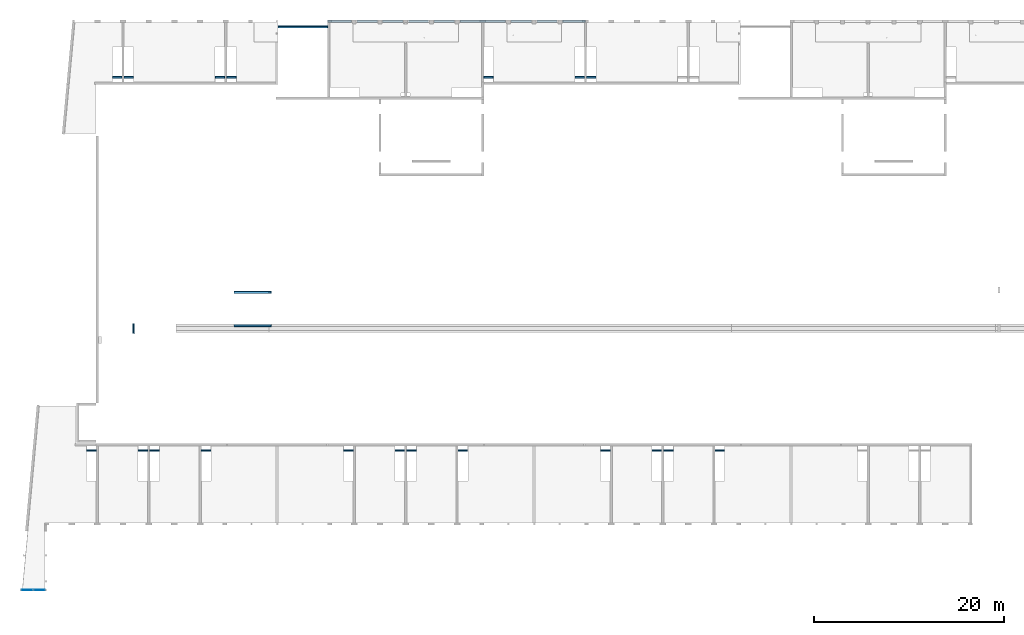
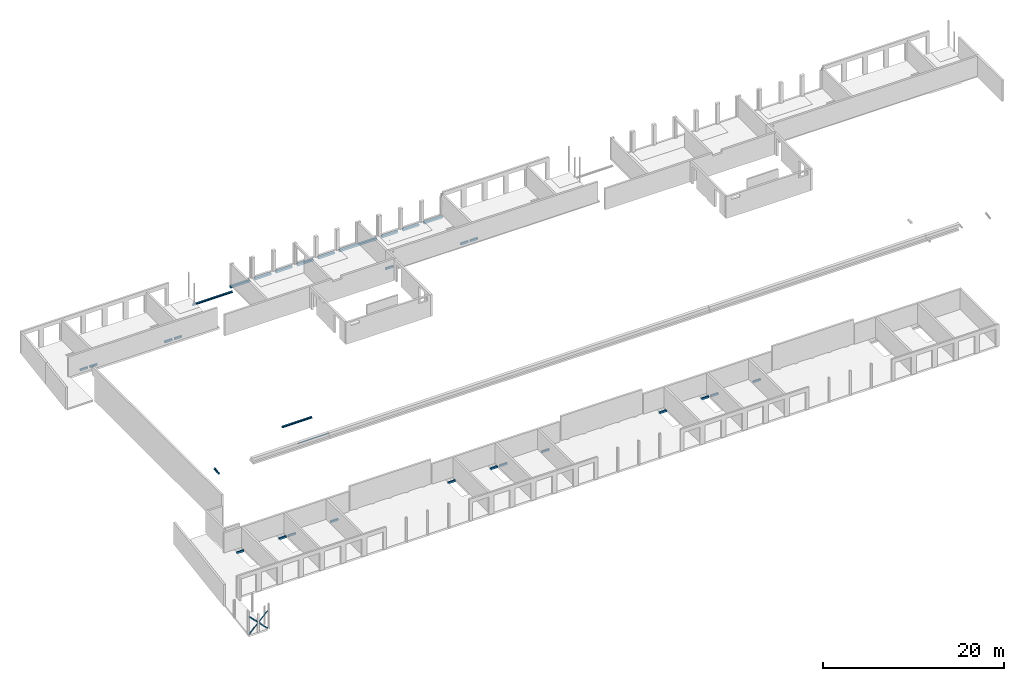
# One storey, part 10 of 22: 28 beams.
"""IFC2X3 building model written with IfcOpenShell, lengths in millimetres."""

from ifc_helpers import new_model, entity, si_unit, converted_unit, derived_unit, direction, frame, frame_2d, origin, origin_2d_with_axis, place, context, subcontext, project, spatial, polyline, circle_curve, parameter, trimmed, segment, composite_curve, rectangle, outline, extrude, source, transform, mapped, material, type_object, type_shapes, element, save


model = new_model("IFC2X3")

# Units and contexts
model_context = context("Model", 3, precision=0.01, world=origin(), true_north=direction((6.12303176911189e-17, 1.0)))
body_context = subcontext(model_context, "Body", "Model", "MODEL_VIEW")
ifc_project = project(units=[si_unit("LENGTHUNIT", "METRE", prefix="MILLI"), si_unit("AREAUNIT", "SQUARE_METRE"), si_unit("VOLUMEUNIT", "CUBIC_METRE"), converted_unit("PLANEANGLEUNIT", "DEGREE", entity("IfcRatioMeasure", 0.0174532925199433), si_unit("PLANEANGLEUNIT", "RADIAN"), dimensions=[0, 0, 0, 0, 0, 0, 0]), si_unit("MASSUNIT", "GRAM", prefix="KILO"), derived_unit("MASSDENSITYUNIT", [(si_unit("MASSUNIT", "GRAM", prefix="KILO"), 1), (si_unit("LENGTHUNIT", "METRE"), -3)]), si_unit("TIMEUNIT", "SECOND"), si_unit("FREQUENCYUNIT", "HERTZ"), si_unit("THERMODYNAMICTEMPERATUREUNIT", "DEGREE_CELSIUS"), derived_unit("THERMALTRANSMITTANCEUNIT", [(si_unit("MASSUNIT", "GRAM", prefix="KILO"), 1), (si_unit("THERMODYNAMICTEMPERATUREUNIT", "KELVIN"), -1), (si_unit("TIMEUNIT", "SECOND"), -3)]), derived_unit("VOLUMETRICFLOWRATEUNIT", [(si_unit("LENGTHUNIT", "METRE"), 3), (si_unit("TIMEUNIT", "SECOND"), -1)]), si_unit("ELECTRICCURRENTUNIT", "AMPERE"), si_unit("ELECTRICVOLTAGEUNIT", "VOLT"), si_unit("POWERUNIT", "WATT"), si_unit("FORCEUNIT", "NEWTON", prefix="KILO"), si_unit("ILLUMINANCEUNIT", "LUX"), si_unit("LUMINOUSFLUXUNIT", "LUMEN"), si_unit("LUMINOUSINTENSITYUNIT", "CANDELA"), derived_unit("USERDEFINED", [(si_unit("MASSUNIT", "GRAM", prefix="KILO"), -1), (si_unit("LENGTHUNIT", "METRE"), -2), (si_unit("TIMEUNIT", "SECOND"), 3), (si_unit("LUMINOUSFLUXUNIT", "LUMEN"), 1)]), derived_unit("LINEARVELOCITYUNIT", [(si_unit("LENGTHUNIT", "METRE"), 1), (si_unit("TIMEUNIT", "SECOND"), -1)]), si_unit("PRESSUREUNIT", "PASCAL"), derived_unit("USERDEFINED", [(si_unit("LENGTHUNIT", "METRE"), -2), (si_unit("MASSUNIT", "GRAM", prefix="KILO"), 1), (si_unit("TIMEUNIT", "SECOND"), -2)])], contexts=[model_context])

# Site, building, storey
site_placement = place(None, origin())
site = spatial("IfcSite", under=ifc_project, at=site_placement, Name="Default", CompositionType="ELEMENT")
building_placement = place(site_placement, origin())
building = spatial("IfcBuilding", under=site, at=building_placement, Name="niet gebruiken", CompositionType="ELEMENT")
storey_placement = place(building_placement, frame((0.0, 0.0, 9630.0)))
storey = spatial("IfcBuildingStorey", under=building, at=storey_placement, Name="03 derde verdieping", CompositionType="ELEMENT", Elevation=9630.00000000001)

# Beams
ifc_material_1 = material(Name="NLRS_h2_staal")
beam_type_1 = type_object("IfcBeamType", Name="NLRS_28.11_SF_WPB_stalen ligger hoekprofiel gelijkzijdig_gen:ligger gelijzijdig hoekprofiel LEQU_150x150x15", PredefinedType="BEAM")
beam_1_placement = place(storey_placement, frame((11932.5, 21361.056476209, 1369.98844434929), z_axis=(0.0, -0.123826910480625, 0.992303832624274), x_axis=(0.0, -0.992303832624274, -0.123826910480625)))
element("IfcBeam", 1, at=beam_1_placement, inside=storey, type_object=beam_type_1, material=ifc_material_1, Name="NLRS_28.11_SF_WPB_stalen ligger hoekprofiel gelijkzijdig_gen:ligger gelijzijdig hoekprofiel LEQU_150x150x15", ObjectType="NLRS_28.11_SF_WPB_stalen ligger hoekprofiel gelijkzijdig_gen:ligger gelijzijdig hoekprofiel LEQU_150x150x15", context=body_context, shape_type="SweptSolid", body=[
    extrude(outline(composite_curve([segment(polyline([(49.6666666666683, -93.3333333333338), (56.6666666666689, -93.3333333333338)]), True, "CONTINUOUS"), segment(polyline([(56.6666666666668, -93.3333333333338), (56.6666666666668, 56.6666666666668)]), True, "CONTINUOUS"), segment(polyline([(56.6666666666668, 56.6666666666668), (-93.3333333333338, 56.6666666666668)]), True, "CONTINUOUS"), segment(polyline([(-93.3333333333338, 56.6666666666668), (-93.3333333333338, 49.666666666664)]), True, "CONTINUOUS"), segment(trimmed(circle_curve(frame_2d((-85.3333333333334, 49.6666666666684), x_axis=(-1.0, 0.0)), 8.00000000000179), [parameter(0.0)], [parameter(89.9999999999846)], True, "PARAMETER"), True, "CONTINUOUS"), segment(polyline([(-85.3333333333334, 41.6666666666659), (25.6666666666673, 41.6666666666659)]), True, "CONTINUOUS"), segment(trimmed(circle_curve(frame_2d((25.6666666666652, 25.6666666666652), x_axis=(0.0, 1.0)), 16.0000000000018), [parameter(270.000000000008)], [parameter(0.0)], True, "PARAMETER"), False, "CONTINUOUS"), segment(polyline([(41.6666666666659, 25.6666666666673), (41.6666666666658, -85.3333333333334)]), True, "CONTINUOUS"), segment(trimmed(circle_curve(frame_2d((49.6666666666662, -85.3333333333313), x_axis=(-1.0, 0.0)), 8.00000000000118), [parameter(0.0)], [parameter(89.9999999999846)], True, "PARAMETER"), True, "CONTINUOUS")], self_intersect=False)), frame((0.0, -14.1666666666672, 56.6666666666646), z_axis=(1.0, 0.0, 0.0), x_axis=(0.0, 0.0, -1.0)), (0.0, 0.0, 1.0), 1045.0),
])
ifc_material_2 = material(Name="NLRS_f2_beton ihwg")
beam_type_2 = type_object("IfcBeamType", Name="250x280", PredefinedType="BEAM", material=ifc_material_2)
shared_shape_1 = source(origin(), body_context, "Body", "SweptSolid", [
    extrude(rectangle(XDim=2489.99999999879, YDim=250.000000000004, at=frame_2d((278.333333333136, -6.03250782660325e-12), x_axis=(1.0, 0.0))), frame((33266.6666666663, 53131.0, 9010.0)), (0.0, 0.0, 1.0), 279.999999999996),
    extrude(rectangle(XDim=2370.00000000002, YDim=250.000000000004, at=frame_2d((298.333333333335, -1.77067249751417e-11), x_axis=(1.0, 0.0))), frame((58493.3333333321, 53131.0, 9010.0), z_axis=(0.0, 0.0, 1.0), x_axis=(-1.0, 0.0, 0.0)), (0.0, 0.0, 1.0), 279.999999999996),
    extrude(rectangle(XDim=2080.0, YDim=250.000000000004, at=frame_2d((8.64019966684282e-12, 0.0), x_axis=(1.0, 0.0))), frame((52650.0, 53131.0, 9010.0), z_axis=(0.0, 0.0, 1.0), x_axis=(-1.0, 0.0, 0.0)), (0.0, 0.0, 1.0), 279.999999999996),
    extrude(rectangle(XDim=2080.0, YDim=250.000000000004, at=frame_2d((-8.64019966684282e-12, -8.66151594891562e-12), x_axis=(1.0, 0.0))), frame((55350.0, 53131.0, 9010.0)), (0.0, 0.0, 1.0), 279.999999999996),
    extrude(rectangle(XDim=4779.99999999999, YDim=249.999999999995, at=frame_2d((1.0481926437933e-09, 8.66151594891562e-12), x_axis=(1.0, 0.0))), frame((48600.0, 53131.0, 9010.0), z_axis=(0.0, 0.0, 1.0), x_axis=(-1.0, 0.0, 0.0)), (0.0, 0.0, 1.0), 279.999999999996),
    extrude(rectangle(XDim=2080.00000000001, YDim=250.000000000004, at=origin_2d_with_axis()), frame((44550.0, 53131.0, 9010.0), z_axis=(0.0, 0.0, 1.0), x_axis=(-1.0, 0.0, 0.0)), (0.0, 0.0, 1.0), 279.999999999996),
    extrude(rectangle(XDim=2079.99999999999, YDim=249.999999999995, at=frame_2d((0.0, 4.33431068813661e-12), x_axis=(1.0, 0.0))), frame((41850.0, 53131.0, 9010.0), z_axis=(0.0, 0.0, 1.0), x_axis=(-1.0, 0.0, 0.0)), (0.0, 0.0, 1.0), 279.999999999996),
    extrude(rectangle(XDim=2080.0, YDim=249.999999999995, at=frame_2d((-4.43378667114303e-12, -4.33431068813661e-12), x_axis=(1.0, 0.0))), frame((39150.0, 53131.0, 9010.0), z_axis=(0.0, 0.0, 1.0), x_axis=(-1.0, 0.0, 0.0)), (0.0, 0.0, 1.0), 279.999999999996),
    extrude(rectangle(XDim=2080.0, YDim=250.000000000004, at=frame_2d((2.1600499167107e-12, 0.0), x_axis=(1.0, 0.0))), frame((36450.0, 53131.0, 9010.0), z_axis=(0.0, 0.0, 1.0), x_axis=(-1.0, 0.0, 0.0)), (0.0, 0.0, 1.0), 279.999999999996),
])
type_shapes(beam_type_2, [shared_shape_1])
beam_2_placement = place(storey_placement, frame((0.0, 0.0, -9630.0)))
element("IfcBeam", 2, at=beam_2_placement, inside=storey, type_object=beam_type_2, material=ifc_material_2, Name="NLRS_28.11_SF_WPB_betonbalk ihwg recht_gen:250x280", ObjectType="250x280", context=body_context, shape_type="MappedRepresentation", body=[
    mapped(shared_shape_1, transform((0.0, 0.0, 0.0), scale=1.0)),
])
beam_type_3 = type_object("IfcBeamType", Name="NLRS_28.11_SF_WPB_stalen ligger hoekprofiel gelijkzijdig_gen:ligger gelijzijdig hoekprofiel LEQU_200x200x15", PredefinedType="BEAM")
beam_3_placement = place(storey_placement, frame((22470.0, 24551.0, 1282.49999999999)))
element("IfcBeam", 3, at=beam_3_placement, inside=storey, type_object=beam_type_3, material=ifc_material_1, Name="NLRS_28.11_SF_WPB_stalen ligger hoekprofiel gelijkzijdig_gen:ligger gelijzijdig hoekprofiel LEQU_200x200x15", ObjectType="NLRS_28.11_SF_WPB_stalen ligger hoekprofiel gelijkzijdig_gen:ligger gelijzijdig hoekprofiel LEQU_200x200x15", context=body_context, shape_type="SweptSolid", body=[
    extrude(outline(composite_curve([segment(polyline([(66.3333333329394, -126.666666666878), (73.3333333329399, -126.666666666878)]), True, "CONTINUOUS"), segment(polyline([(73.3333333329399, -126.666666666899), (73.3333333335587, 73.3333333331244)]), True, "CONTINUOUS"), segment(polyline([(73.3333333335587, 73.3333333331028), (-126.666666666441, 73.3333333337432)]), True, "CONTINUOUS"), segment(polyline([(-126.666666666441, 73.3333333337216), (-126.666666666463, 66.3333333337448)]), True, "CONTINUOUS"), segment(trimmed(circle_curve(frame_2d((-118.666666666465, 66.333333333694), x_axis=(-1.0, 0.0)), 7.99999999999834), [parameter(0.0)], [parameter(90.0000000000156)], True, "PARAMETER"), True, "CONTINUOUS"), segment(polyline([(-118.666666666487, 58.3333333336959), (42.3333333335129, 58.3333333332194)]), True, "CONTINUOUS"), segment(trimmed(circle_curve(frame_2d((42.3333333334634, 42.3333333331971), x_axis=(0.0, 1.0)), 16.0000000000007), [parameter(270.0)], [parameter(0.0)], True, "PARAMETER"), False, "CONTINUOUS"), segment(polyline([(58.3333333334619, 42.3333333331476), (58.3333333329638, -118.666666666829)]), True, "CONTINUOUS"), segment(trimmed(circle_curve(frame_2d((66.3333333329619, -118.666666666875), x_axis=(-1.0, 0.0)), 7.99999999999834), [parameter(0.0)], [parameter(90.0000000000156)], True, "PARAMETER"), True, "CONTINUOUS")], self_intersect=False)), frame((0.0, 126.666666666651, -19.1666666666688), z_axis=(1.0, 0.0, 0.0), x_axis=(0.0, 0.0, -1.0)), (0.0, 0.0, 1.0), 3880.00000000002),
])
beam_4_placement = place(storey_placement, frame((22470.0, 21246.0, 1282.49999999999)))
element("IfcBeam", 4, at=beam_4_placement, inside=storey, type_object=beam_type_3, material=ifc_material_1, Name="NLRS_28.11_SF_WPB_stalen ligger hoekprofiel gelijkzijdig_gen:ligger gelijzijdig hoekprofiel LEQU_200x200x15", ObjectType="NLRS_28.11_SF_WPB_stalen ligger hoekprofiel gelijkzijdig_gen:ligger gelijzijdig hoekprofiel LEQU_200x200x15", context=body_context, shape_type="SweptSolid", body=[
    extrude(outline(composite_curve([segment(polyline([(-126.66666666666, -73.3333333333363), (73.3333333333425, -73.3333333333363)]), True, "CONTINUOUS"), segment(polyline([(73.3333333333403, -73.3333333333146), (73.333333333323, 126.666666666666)]), True, "CONTINUOUS"), segment(polyline([(73.3333333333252, 126.666666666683), (66.3333333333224, 126.666666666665)]), True, "CONTINUOUS"), segment(trimmed(circle_curve(frame_2d((66.333333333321, 118.666666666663), x_axis=(0.0, 1.0)), 7.99999999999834), [parameter(0.0)], [parameter(90.0000000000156)], True, "PARAMETER"), True, "CONTINUOUS"), segment(polyline([(58.3333333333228, 118.666666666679), (58.3333333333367, -42.333333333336)]), True, "CONTINUOUS"), segment(trimmed(circle_curve(frame_2d((42.3333333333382, -42.3333333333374), x_axis=(1.0, 0.0)), 16.0000000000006), [parameter(270.0)], [parameter(0.0)], True, "PARAMETER"), False, "CONTINUOUS"), segment(polyline([(42.3333333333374, -58.3333333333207), (-118.666666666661, -58.333333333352)]), True, "CONTINUOUS"), segment(trimmed(circle_curve(frame_2d((-118.666666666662, -66.3333333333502), x_axis=(0.0, 1.0)), 7.99999999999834), [parameter(0.0)], [parameter(90.0000000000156)], True, "PARAMETER"), True, "CONTINUOUS"), segment(polyline([(-126.66666666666, -66.3333333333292), (-126.66666666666, -73.3333333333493)]), True, "CONTINUOUS")], self_intersect=False)), frame((0.0, -126.666666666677, -19.1666666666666), z_axis=(1.0, 0.0, 0.0), x_axis=(0.0, 0.0, -1.0)), (0.0, 0.0, 1.0), 3880.00000000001),
])
beam_5_placement = place(storey_placement, frame((27100.0, 52547.0, -850.0)))
element("IfcBeam", 5, at=beam_5_placement, inside=storey, type_object=beam_type_3, material=ifc_material_1, Name="NLRS_28.11_SF_WPB_stalen ligger hoekprofiel gelijkzijdig_gen:ligger gelijzijdig hoekprofiel LEQU_200x200x15", ObjectType="NLRS_28.11_SF_WPB_stalen ligger hoekprofiel gelijkzijdig_gen:ligger gelijzijdig hoekprofiel LEQU_200x200x15", context=body_context, shape_type="SweptSolid", body=[
    extrude(outline(composite_curve([segment(polyline([(66.3333333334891, -126.666666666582), (73.3333333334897, -126.666666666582)]), True, "CONTINUOUS"), segment(polyline([(73.3333333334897, -126.666666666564), (73.3333333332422, 73.3333333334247)]), True, "CONTINUOUS"), segment(polyline([(73.3333333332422, 73.3333333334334), (-126.666666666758, 73.3333333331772)]), True, "CONTINUOUS"), segment(polyline([(-126.666666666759, 73.3333333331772), (-126.66666666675, 66.3333333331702)]), True, "CONTINUOUS"), segment(trimmed(circle_curve(frame_2d((-118.66666666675, 66.3333333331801), x_axis=(-1.0, 0.0)), 7.99999999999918), [parameter(0.0)], [parameter(90.0000000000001)], True, "PARAMETER"), True, "CONTINUOUS"), segment(polyline([(-118.66666666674, 58.3333333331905), (42.3333333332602, 58.3333333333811)]), True, "CONTINUOUS"), segment(trimmed(circle_curve(frame_2d((42.3333333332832, 42.3333333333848), x_axis=(0.0, 1.0)), 15.9999999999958), [parameter(269.999999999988)], [parameter(0.0)], True, "PARAMETER"), False, "CONTINUOUS"), segment(polyline([(58.3333333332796, 42.3333333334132), (58.3333333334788, -118.666666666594)]), True, "CONTINUOUS"), segment(trimmed(circle_curve(frame_2d((66.3333333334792, -118.666666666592), x_axis=(-1.0, 0.0)), 7.99999999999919), [parameter(0.0)], [parameter(90.0000000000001)], True, "PARAMETER"), True, "CONTINUOUS")], self_intersect=False)), frame((0.0, 19.1666666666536, 73.3333333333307), z_axis=(1.0, 0.0, 0.0), x_axis=(0.0, 0.0, -1.0)), (0.0, 0.0, 1.0), 5200.0),
])
beam_type_4 = type_object("IfcBeamType", Name="ligger stripstaal RECT_100x10", PredefinedType="BEAM", material=ifc_material_1)
shared_shape_2 = source(origin(), body_context, "Body", "SweptSolid", [
    extrude(rectangle(XDim=99.9999999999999, YDim=9.99999999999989, at=frame_2d((0.0, 0.0), x_axis=(0.0, 1.0))), frame((175.211727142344, -6640.0, 12085.3728608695), z_axis=(0.70842652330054, 0.0, -0.705784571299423), x_axis=(0.0, -1.0, 0.0)), (0.0, 0.0, 1.0), 1517.14855035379),
    extrude(rectangle(XDim=99.9999999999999, YDim=9.99999999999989, at=frame_2d((0.0, 0.0), x_axis=(0.0, 1.0))), frame((175.211727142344, -6640.0, 12085.3728608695), z_axis=(0.70842652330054, 0.0, -0.705784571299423), x_axis=(0.0, -1.0, 0.0)), (0.0, 0.0, 1.0), 1517.14855035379),
])
type_shapes(beam_type_4, [shared_shape_2])
beam_6_placement = place(storey_placement, frame((0.0, 0.0, -9630.0)))
element("IfcBeam", 6, at=beam_6_placement, inside=storey, type_object=beam_type_4, material=ifc_material_1, Name="NLRS_28.11_SF_WPB_stalen ligger stripstaal_gen:ligger stripstaal RECT_100x10", ObjectType="ligger stripstaal RECT_100x10", context=body_context, shape_type="MappedRepresentation", body=[
    mapped(shared_shape_2, transform((0.0, 0.0, 0.0), scale=1.0)),
])
beam_type_5 = type_object("IfcBeamType", Name="NLRS_28.11_SF_WPB_betonbalk ihwg recht_gen:180x250", PredefinedType="BEAM")
for number, where, name in (
    (7, (59525.0, 47236.0, -90.0), "NLRS_28.11_SF_WPB_betonbalk ihwg recht_gen:180x250"),
    (8, (58305.0, 47236.0, -90.0), "NLRS_28.11_SF_WPB_betonbalk ihwg recht_gen:180x250"),
    (9, (48725.0, 47236.0, -90.0), "NLRS_28.11_SF_WPB_betonbalk ihwg recht_gen:180x250"),
):
    element("IfcBeam", number, at=place(storey_placement, frame(where)), inside=storey, type_object=beam_type_5, material=ifc_material_2, Name=name, ObjectType="NLRS_28.11_SF_WPB_betonbalk ihwg recht_gen:180x250", context=body_context, shape_type="SweptSolid", body=[
        extrude(rectangle(XDim=249.999999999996, YDim=180.000000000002, at=frame_2d((-5.40012479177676e-13, 4.33431068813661e-12), x_axis=(1.0, 0.0))), frame((0.0, 0.0, -125.0), z_axis=(1.0, 0.0, 0.0), x_axis=(0.0, 0.0, -1.0)), (0.0, 0.0, 1.0), 970.000000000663),
    ])
for number, where, name in (
    (10, (21725.0, 47236.0, -90.0), "NLRS_28.11_SF_WPB_betonbalk ihwg recht_gen:180x250"),
    (11, (20505.0, 47236.0, -90.0), "NLRS_28.11_SF_WPB_betonbalk ihwg recht_gen:180x250"),
    (12, (10925.0, 47236.0, -90.0), "NLRS_28.11_SF_WPB_betonbalk ihwg recht_gen:180x250"),
    (13, (9705.0, 47236.0, -90.0), "NLRS_28.11_SF_WPB_betonbalk ihwg recht_gen:180x250"),
):
    element("IfcBeam", number, at=place(storey_placement, frame(where)), inside=storey, type_object=beam_type_5, material=ifc_material_2, Name=name, ObjectType="NLRS_28.11_SF_WPB_betonbalk ihwg recht_gen:180x250", context=body_context, shape_type="SweptSolid", body=[
        extrude(rectangle(XDim=249.999999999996, YDim=180.000000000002, at=frame_2d((-5.40012479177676e-13, -4.33431068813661e-12), x_axis=(1.0, 0.0))), frame((0.0, 0.0, -125.0), z_axis=(1.0, 0.0, 0.0), x_axis=(0.0, 0.0, -1.0)), (0.0, 0.0, 1.0), 970.000000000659),
    ])
for number, where, name in (
    (14, (67625.0, 8006.0, -90.0), "NLRS_28.11_SF_WPB_betonbalk ihwg recht_gen:180x250"),
    (15, (66405.0, 8006.0, -90.0), "NLRS_28.11_SF_WPB_betonbalk ihwg recht_gen:180x250"),
    (16, (61005.0, 8006.0, -90.0), "NLRS_28.11_SF_WPB_betonbalk ihwg recht_gen:180x250"),
    (17, (46025.0, 8006.0, -90.0), "NLRS_28.11_SF_WPB_betonbalk ihwg recht_gen:180x250"),
    (18, (40625.0, 8006.0, -90.0), "NLRS_28.11_SF_WPB_betonbalk ihwg recht_gen:180x250"),
    (19, (39405.0, 8006.0, -90.0), "NLRS_28.11_SF_WPB_betonbalk ihwg recht_gen:180x250"),
):
    element("IfcBeam", number, at=place(storey_placement, frame(where)), inside=storey, type_object=beam_type_5, material=ifc_material_2, Name=name, ObjectType="NLRS_28.11_SF_WPB_betonbalk ihwg recht_gen:180x250", context=body_context, shape_type="SweptSolid", body=[
        extrude(rectangle(XDim=249.999999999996, YDim=180.0, at=frame_2d((-5.40012479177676e-13, 0.0), x_axis=(1.0, 0.0))), frame((0.0, 0.0, -125.0), z_axis=(1.0, 0.0, 0.0), x_axis=(0.0, 0.0, -1.0)), (0.0, 0.0, 1.0), 970.000000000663),
    ])
beam_7_placement = place(storey_placement, frame((34005.0, 8006.0, -90.0)))
element("IfcBeam", 20, at=beam_7_placement, inside=storey, type_object=beam_type_5, material=ifc_material_2, Name="NLRS_28.11_SF_WPB_betonbalk ihwg recht_gen:180x250", ObjectType="NLRS_28.11_SF_WPB_betonbalk ihwg recht_gen:180x250", context=body_context, shape_type="SweptSolid", body=[
    extrude(rectangle(XDim=249.999999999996, YDim=180.0, at=frame_2d((-5.40012479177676e-13, 0.0), x_axis=(1.0, 0.0))), frame((0.0, 0.0, -125.0), z_axis=(1.0, 0.0, 0.0), x_axis=(0.0, 0.0, -1.0)), (0.0, 0.0, 1.0), 970.000000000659),
])
beam_8_placement = place(storey_placement, frame((19025.0, 8006.0, -90.0)))
element("IfcBeam", 21, at=beam_8_placement, inside=storey, type_object=beam_type_5, material=ifc_material_2, Name="NLRS_28.11_SF_WPB_betonbalk ihwg recht_gen:180x250", ObjectType="NLRS_28.11_SF_WPB_betonbalk ihwg recht_gen:180x250", context=body_context, shape_type="SweptSolid", body=[
    extrude(rectangle(XDim=249.999999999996, YDim=180.0, at=frame_2d((-5.40012479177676e-13, 0.0), x_axis=(1.0, 0.0))), frame((0.0, 0.0, -125.0), z_axis=(1.0, 0.0, 0.0), x_axis=(0.0, 0.0, -1.0)), (0.0, 0.0, 1.0), 970.000000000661),
])
for number, where, name in (
    (22, (13625.0, 8006.0, -90.0), "NLRS_28.11_SF_WPB_betonbalk ihwg recht_gen:180x250"),
    (23, (12405.0, 8006.0, -90.0), "NLRS_28.11_SF_WPB_betonbalk ihwg recht_gen:180x250"),
    (24, (7005.0, 8006.0, -90.0), "NLRS_28.11_SF_WPB_betonbalk ihwg recht_gen:180x250"),
):
    element("IfcBeam", number, at=place(storey_placement, frame(where)), inside=storey, type_object=beam_type_5, material=ifc_material_2, Name=name, ObjectType="NLRS_28.11_SF_WPB_betonbalk ihwg recht_gen:180x250", context=body_context, shape_type="SweptSolid", body=[
        extrude(rectangle(XDim=249.999999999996, YDim=180.0, at=frame_2d((-5.40012479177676e-13, 0.0), x_axis=(1.0, 0.0))), frame((0.0, 0.0, -125.0), z_axis=(1.0, 0.0, 0.0), x_axis=(0.0, 0.0, -1.0)), (0.0, 0.0, 1.0), 970.000000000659),
    ])
beam_9_placement = place(storey_placement, frame((73025.0, 8006.0, -90.0)))
element("IfcBeam", 25, at=beam_9_placement, inside=storey, type_object=beam_type_5, material=ifc_material_2, Name="NLRS_28.11_SF_WPB_betonbalk ihwg recht_gen:180x250", ObjectType="NLRS_28.11_SF_WPB_betonbalk ihwg recht_gen:180x250", context=body_context, shape_type="SweptSolid", body=[
    extrude(rectangle(XDim=249.999999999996, YDim=180.0, at=frame_2d((-5.40012479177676e-13, 0.0), x_axis=(1.0, 0.0))), frame((0.0, 0.0, -125.0), z_axis=(1.0, 0.0, 0.0), x_axis=(0.0, 0.0, -1.0)), (0.0, 0.0, 1.0), 970.000000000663),
])
beam_type_6 = type_object("IfcBeamType", Name="ligger stripstaal RECT_100x10", PredefinedType="BEAM", material=ifc_material_1)
shared_shape_3 = source(origin(), body_context, "Body", "SweptSolid", [
    extrude(rectangle(XDim=99.9999999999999, YDim=9.99999999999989, at=frame_2d((0.0, -1.0831335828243e-12), x_axis=(1.0, 0.0))), frame((175.211727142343, -6640.0, 9669.62709345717), z_axis=(0.70842652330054, 0.0, 0.705784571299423), x_axis=(0.705784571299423, 0.0, -0.70842652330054)), (0.0, 0.0, 1.0), 1517.14855035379),
    extrude(rectangle(XDim=99.9999999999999, YDim=9.99999999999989, at=frame_2d((0.0, -1.0831335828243e-12), x_axis=(1.0, 0.0))), frame((175.211727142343, -6640.0, 9669.62709345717), z_axis=(0.70842652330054, 0.0, 0.705784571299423), x_axis=(0.705784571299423, 0.0, -0.70842652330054)), (0.0, 0.0, 1.0), 1517.14855035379),
])
type_shapes(beam_type_6, [shared_shape_3])
beam_10_placement = place(storey_placement, frame((0.0, 0.0, -9630.0)))
element("IfcBeam", 26, at=beam_10_placement, inside=storey, type_object=beam_type_6, material=ifc_material_1, Name="NLRS_28.11_SF_WPB_stalen ligger stripstaal_gen:ligger stripstaal RECT_100x10", ObjectType="ligger stripstaal RECT_100x10", context=body_context, shape_type="MappedRepresentation", body=[
    mapped(shared_shape_3, transform((0.0, 0.0, 0.0), scale=1.0)),
])
beam_type_7 = type_object("IfcBeamType", Name="ligger stripstaal RECT_100x10", PredefinedType="BEAM", material=ifc_material_1)
shared_shape_4 = source(origin(), body_context, "Body", "SweptSolid", [
    extrude(rectangle(XDim=100.0, YDim=9.99999999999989, at=frame_2d((0.0, -9.2370555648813e-14), x_axis=(0.0, 1.0))), frame((1487.46548943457, -6640.0, 10976.9871073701), z_axis=(0.708426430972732, 0.0, 0.705784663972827), x_axis=(0.0, -1.0, 0.0)), (0.0, 0.0, 1.0), 1517.14855035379),
    extrude(rectangle(XDim=100.0, YDim=9.99999999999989, at=frame_2d((0.0, -9.2370555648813e-14), x_axis=(0.0, 1.0))), frame((1487.46548943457, -6640.0, 10976.9871073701), z_axis=(0.708426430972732, 0.0, 0.705784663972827), x_axis=(0.0, -1.0, 0.0)), (0.0, 0.0, 1.0), 1517.14855035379),
])
type_shapes(beam_type_7, [shared_shape_4])
beam_11_placement = place(storey_placement, frame((0.0, 0.0, -9630.0)))
element("IfcBeam", 27, at=beam_11_placement, inside=storey, type_object=beam_type_7, material=ifc_material_1, Name="NLRS_28.11_SF_WPB_stalen ligger stripstaal_gen:ligger stripstaal RECT_100x10", ObjectType="ligger stripstaal RECT_100x10", context=body_context, shape_type="MappedRepresentation", body=[
    mapped(shared_shape_4, transform((0.0, 0.0, 0.0), scale=1.0)),
])
beam_type_8 = type_object("IfcBeamType", Name="ligger stripstaal RECT_100x10", PredefinedType="BEAM", material=ifc_material_1)
shared_shape_5 = source(origin(), body_context, "Body", "SweptSolid", [
    extrude(rectangle(XDim=99.9999999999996, YDim=9.99999999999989, at=frame_2d((1.91846538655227e-13, 1.0831335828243e-12), x_axis=(1.0, 0.0))), frame((1487.46551496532, -6640.0, 10778.0128916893), z_axis=(0.708426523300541, 0.0, -0.705784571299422), x_axis=(-0.705784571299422, 0.0, -0.708426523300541)), (0.0, 0.0, 1.0), 1517.14855035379),
    extrude(rectangle(XDim=99.9999999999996, YDim=9.99999999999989, at=frame_2d((1.91846538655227e-13, 1.0831335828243e-12), x_axis=(1.0, 0.0))), frame((1487.46551496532, -6640.0, 10778.0128916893), z_axis=(0.708426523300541, 0.0, -0.705784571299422), x_axis=(-0.705784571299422, 0.0, -0.708426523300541)), (0.0, 0.0, 1.0), 1517.14855035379),
])
type_shapes(beam_type_8, [shared_shape_5])
beam_12_placement = place(storey_placement, frame((0.0, 0.0, -9630.0)))
element("IfcBeam", 28, at=beam_12_placement, inside=storey, type_object=beam_type_8, material=ifc_material_1, Name="NLRS_28.11_SF_WPB_stalen ligger stripstaal_gen:ligger stripstaal RECT_100x10", ObjectType="ligger stripstaal RECT_100x10", context=body_context, shape_type="MappedRepresentation", body=[
    mapped(shared_shape_5, transform((0.0, 0.0, 0.0), scale=1.0)),
])

save(model, "model.ifc")
